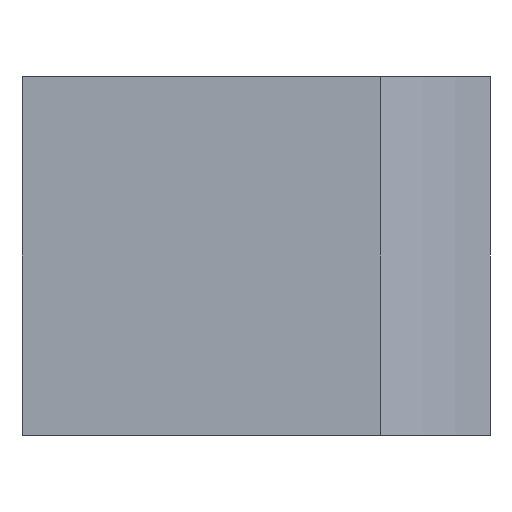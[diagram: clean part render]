
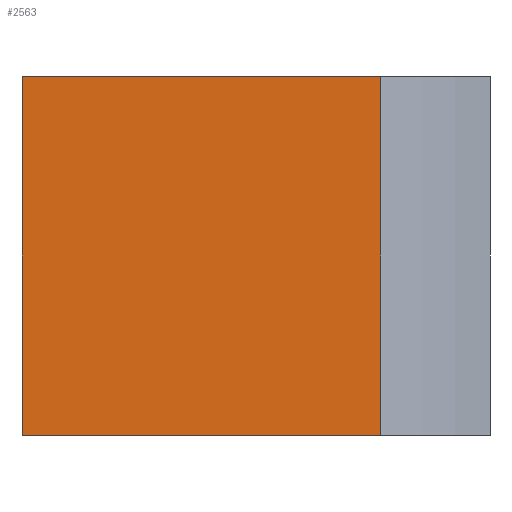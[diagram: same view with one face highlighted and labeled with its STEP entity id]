
A CAD part, left-side view. The second image highlights one B-rep face of the part: STEP entity #2563.
In plain terms, the highlighted planar face has unit normal (-1, 0, 0).
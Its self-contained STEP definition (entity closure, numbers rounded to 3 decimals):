
#6 = AXIS2_PLACEMENT_3D ( 'NONE', #826, #2022, #1829 ) ;
#53 = CARTESIAN_POINT ( 'NONE',  ( -203.2, 11.13, 0. ) ) ;
#67 = VERTEX_POINT ( 'NONE', #1838 ) ;
#102 = EDGE_CURVE ( 'NONE', #2793, #1078, #2083, .T. ) ;
#207 = EDGE_CURVE ( 'NONE', #1078, #3152, #2300, .T. ) ;
#310 = DIRECTION ( 'NONE',  ( 0., -1., 0. ) ) ;
#372 = DIRECTION ( 'NONE',  ( 0., 0., -1. ) ) ;
#554 = VECTOR ( 'NONE', #310, 1000. ) ;
#795 = LINE ( 'NONE', #1797, #554 ) ;
#804 = DIRECTION ( 'NONE',  ( 0., 0., -1. ) ) ;
#826 = CARTESIAN_POINT ( 'NONE',  ( -203.2, 11.13, 36.48 ) ) ;
#998 = CARTESIAN_POINT ( 'NONE',  ( -203.2, 47.63, 36.48 ) ) ;
#1078 = VERTEX_POINT ( 'NONE', #2658 ) ;
#1079 = VECTOR ( 'NONE', #804, 1000. ) ;
#1087 = FACE_OUTER_BOUND ( 'NONE', #2456, .T. ) ;
#1130 = CARTESIAN_POINT ( 'NONE',  ( -203.2, 47.63, 36.48 ) ) ;
#1150 = ORIENTED_EDGE ( 'NONE', *, *, #102, .T. ) ;
#1182 = CARTESIAN_POINT ( 'NONE',  ( -203.2, 11.13, 36.48 ) ) ;
#1341 = EDGE_CURVE ( 'NONE', #2793, #67, #795, .T. ) ;
#1373 = VECTOR ( 'NONE', #372, 1000. ) ;
#1443 = ORIENTED_EDGE ( 'NONE', *, *, #2628, .F. ) ;
#1797 = CARTESIAN_POINT ( 'NONE',  ( -203.2, 11.13, 36.48 ) ) ;
#1829 = DIRECTION ( 'NONE',  ( 0., 0., -1. ) ) ;
#1838 = CARTESIAN_POINT ( 'NONE',  ( -203.2, 11.13, 36.48 ) ) ;
#2022 = DIRECTION ( 'NONE',  ( 1., 0., 0. ) ) ;
#2083 = LINE ( 'NONE', #1130, #1079 ) ;
#2231 = VECTOR ( 'NONE', #3057, 1000. ) ;
#2300 = LINE ( 'NONE', #53, #2231 ) ;
#2456 = EDGE_LOOP ( 'NONE', ( #2742, #1443, #2460, #1150 ) ) ;
#2460 = ORIENTED_EDGE ( 'NONE', *, *, #1341, .F. ) ;
#2563 = ADVANCED_FACE ( 'NONE', ( #1087 ), #2786, .F. ) ;
#2628 = EDGE_CURVE ( 'NONE', #67, #3152, #2656, .T. ) ;
#2656 = LINE ( 'NONE', #1182, #1373 ) ;
#2658 = CARTESIAN_POINT ( 'NONE',  ( -203.2, 47.63, 0. ) ) ;
#2742 = ORIENTED_EDGE ( 'NONE', *, *, #207, .T. ) ;
#2786 = PLANE ( 'NONE',  #6 ) ;
#2793 = VERTEX_POINT ( 'NONE', #998 ) ;
#2877 = CARTESIAN_POINT ( 'NONE',  ( -203.2, 11.13, 0. ) ) ;
#3057 = DIRECTION ( 'NONE',  ( 0., -1., 0. ) ) ;
#3152 = VERTEX_POINT ( 'NONE', #2877 ) ;
